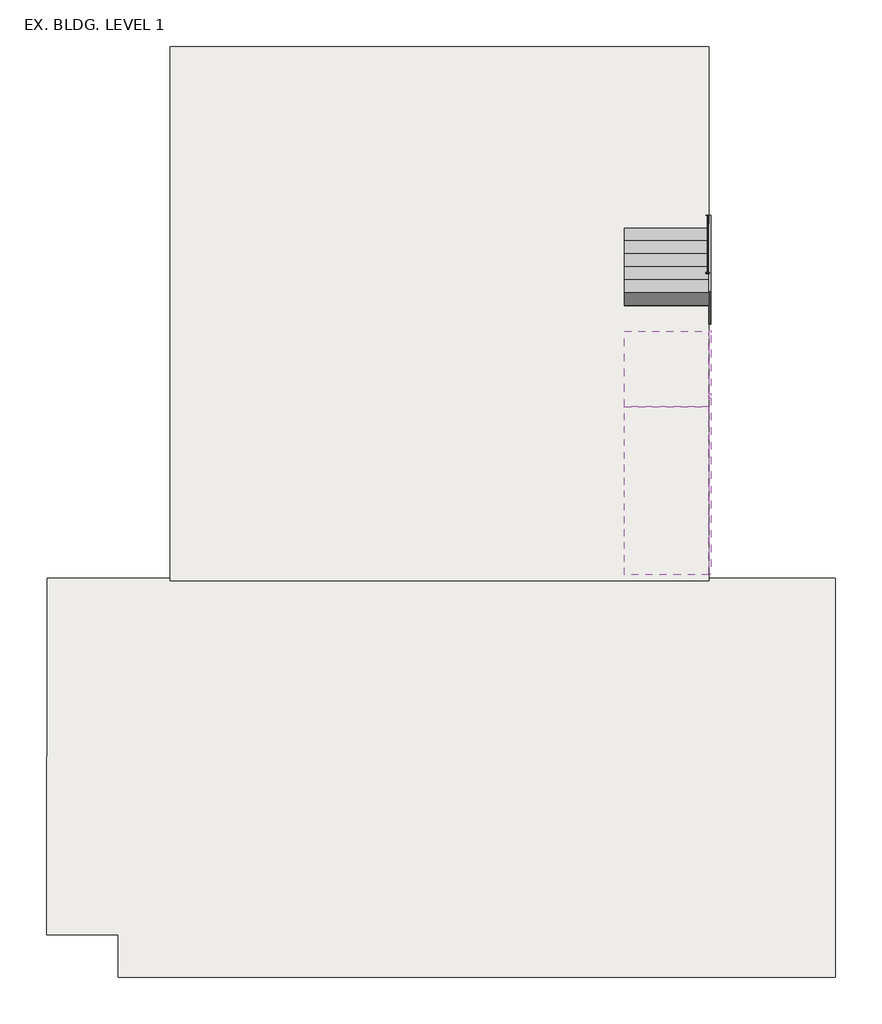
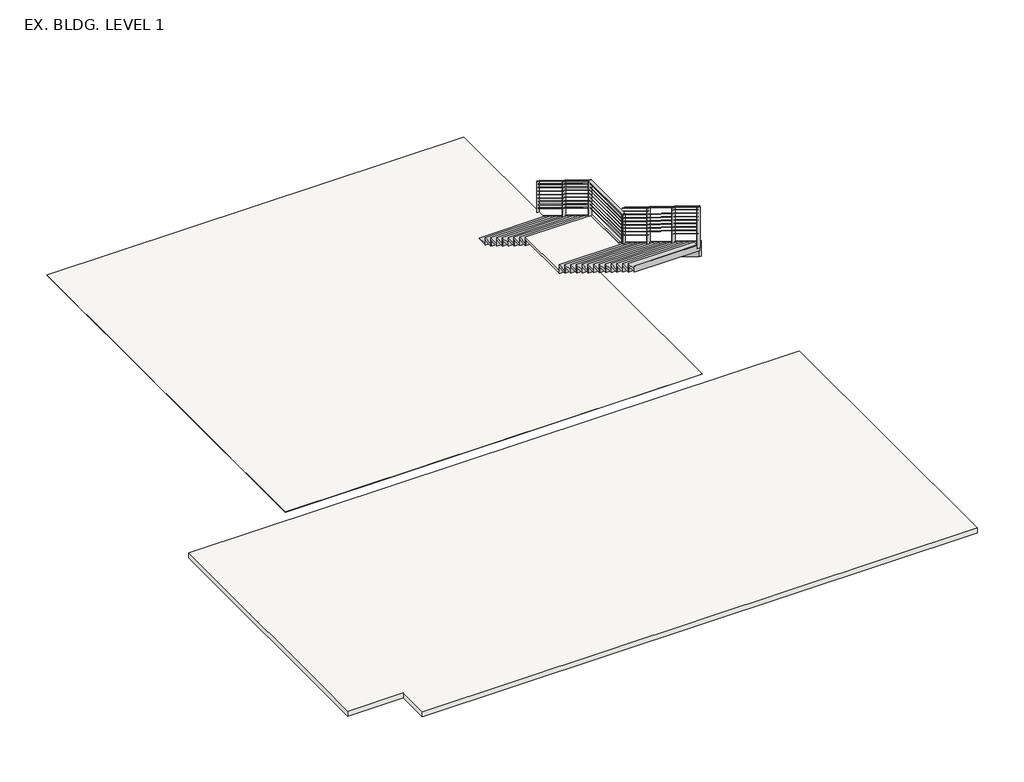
# One storey: 3 members, 3 slabs, 2 stair flights, 1 railing.
"""IFC4 building model written with IfcOpenShell, lengths in millimetres."""

from ifc_helpers import new_model, si_unit, frame, origin, place, context, project, spatial, polyline, outline, extrude, transform, mapped, element, save
from components import cable_guard_rail_r2_ad3334e2, non_monolithic_landing_7b914266, stair_flight_74e7f314, stair_flight_2bd04a2d

model = new_model("IFC4")

# Units and contexts
model_context = context("Model", 3, world=origin())
ifc_project = project(units=[si_unit("LENGTHUNIT", "METRE", prefix="MILLI")], contexts=[model_context])

# Site, building, storey
site = spatial("IfcSite", under=ifc_project)
building = spatial("IfcBuilding", under=site)
storey = spatial("IfcBuildingStorey", under=building, Name="EX. BLDG. LEVEL 1", Elevation=290690.3)

# Members
placement = place(None, origin())
element("IfcMember", 1, ObjectType="Stringer - 2\" Width", at=placement, inside=storey, context=model_context, shape_type="SweptSolid", body=[
    extrude(outline(polyline([(230739.7703252, 290874.920875), (230739.7703252, 290690.3), (230313.5651677, 290690.3), (228132.7626849, 292036.7803208), (228240.9059467, 292417.7803208), (230739.7703252, 290874.920875)])), frame((37080.3654546, 0.0, 0.0), z_axis=(1.0, 0.0, 0.0), x_axis=(0.0, 1.0, 0.0)), (0.0, 0.0, 1.0), 50.8),
])
element("IfcMember", 2, ObjectType="Stringer - 2\" Width", at=placement, inside=storey, context=model_context, shape_type="SweptSolid", body=[
    extrude(outline(polyline([(226883.9266011, 292417.7803208), (226775.7833393, 292036.7803208), (222956.5909796, 294394.8422702), (222956.5909796, 294842.6125417), (226883.9266011, 292417.7803208)])), frame((37080.3654546, 0.0, 0.0), z_axis=(1.0, 0.0, 0.0), x_axis=(0.0, 1.0, 0.0)), (0.0, 0.0, 1.0), 50.8),
])
element("IfcMember", 3, ObjectType="Stringer - 2\" Width", at=placement, inside=storey, context=model_context, shape_type="SweptSolid", body=[
    extrude(outline(polyline([(226775.7833393, 292036.7803208), (226883.9266011, 292417.7803208), (228240.9059467, 292417.7803208), (228132.7626849, 292036.7803208), (226775.7833393, 292036.7803208)])), frame((37080.3654546, 0.0, 0.0), z_axis=(1.0, 0.0, 0.0), x_axis=(0.0, 1.0, 0.0)), (0.0, 0.0, 1.0), 50.8),
])

# Railing
cable_guard_rail_r2_shape = cable_guard_rail_r2_ad3334e2(model_context)
element("IfcRailing", 4, ObjectType="Cable Guard Rail - R2", at=placement, inside=storey, context=model_context, shape_type="MappedRepresentation", body=[
    mapped(cable_guard_rail_r2_shape, transform((0.0, 0.0, 0.0), x_axis=(1.0, 0.0, 0.0), y_axis=(0.0, 1.0, 0.0), z_axis=(0.0, 0.0, 1.0))),
])

# Slabs
element("IfcSlab", 5, ObjectType="6\" Concrete Slab", at=placement, inside=storey, context=model_context, shape_type="SweptSolid", body=[
    extrude(outline(polyline([(24268.9028623, 214210.4633631), (24268.9028623, 215131.2095787), (22712.1419204, 215131.2095787), (22723.1045326, 222865.0379418), (39823.5654546, 222865.0379418), (39823.5654546, 214210.4633631), (24268.9028623, 214210.4633631)])), frame((0.0, 0.0, 290537.9), z_axis=(0.0, 0.0, 1.0), x_axis=(1.0, 0.0, 0.0)), (0.0, 0.0, 1.0), 152.4),
])
element("IfcSlab", 6, ObjectType="FF - 1/4\" Carpet", at=placement, inside=storey, context=model_context, shape_type="SweptSolid", body=[
    extrude(outline(polyline([(37080.3654546, 222818.1492693), (25396.8728313, 222818.1492693), (25396.8728313, 234397.3703252), (37080.3654546, 234397.3703252), (37080.3654546, 222818.1492693)])), frame((0.0, 0.0, 290988.75), z_axis=(0.0, 0.0, 1.0), x_axis=(1.0, 0.0, 0.0)), (0.0, 0.0, 1.0), 6.35),
])
non_monolithic_landing_shape = non_monolithic_landing_7b914266(model_context)
element("IfcSlab", 7, ObjectType="Non-Monolithic Landing", at=placement, inside=storey, context=model_context, shape_type="MappedRepresentation", body=[
    mapped(non_monolithic_landing_shape, transform((0.0, 0.0, 0.0), x_axis=(1.0, 0.0, 0.0), y_axis=(0.0, 1.0, 0.0), z_axis=(0.0, 0.0, 1.0))),
])

# Stair flights
stair_flight_shape = stair_flight_74e7f314(model_context)
element("IfcStairFlight", 8, ObjectType="3\" Tread 1/2\" Riser", at=placement, inside=storey, context=model_context, shape_type="MappedRepresentation", body=[
    mapped(stair_flight_shape, transform((0.0, 0.0, 0.0), x_axis=(1.0, 0.0, 0.0), y_axis=(0.0, 1.0, 0.0), z_axis=(0.0, 0.0, 1.0))),
])
stair_flight_2_shape = stair_flight_2bd04a2d(model_context)
element("IfcStairFlight", 9, ObjectType="3\" Tread 1/2\" Riser", at=placement, inside=storey, context=model_context, shape_type="MappedRepresentation", body=[
    mapped(stair_flight_2_shape, transform((0.0, 0.0, 0.0), x_axis=(1.0, 0.0, 0.0), y_axis=(0.0, 1.0, 0.0), z_axis=(0.0, 0.0, 1.0))),
])

save(model, "model.ifc")
